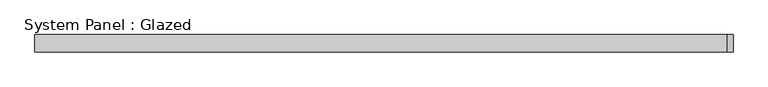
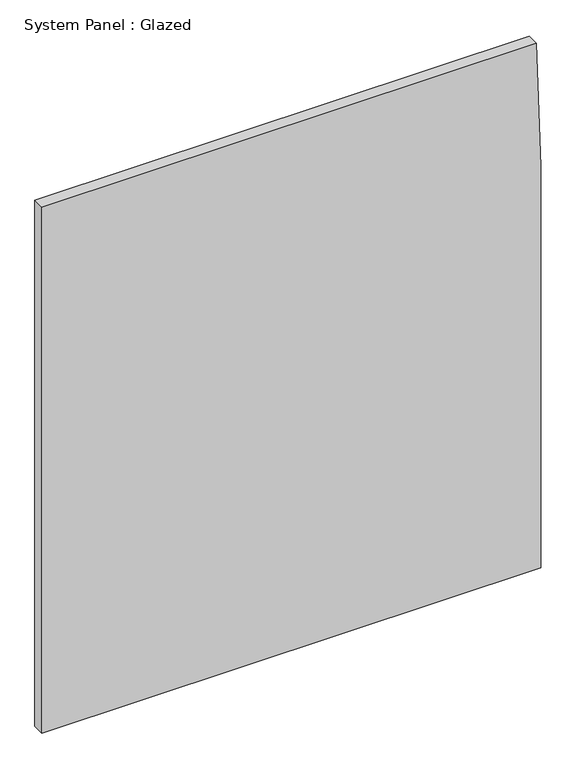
"""IFC4 building model written with IfcOpenShell, lengths in millimetres: plate geometry, System Panel : Glazed."""

from ifc_helpers import new_model, si_unit, point, frame, frame_2d, origin, place, context, project, spatial, polyline, circle_curve, trimmed, segment, composite_curve, outline, extrude, source, transform, mapped, element, save


def system_panel_glazed_f13d1862(model_context):
    return source(origin(), model_context, "Body", "SweptSolid", [
        extrude(outline(composite_curve([segment(polyline([(0.0, -518.432143), (0.0, 518.432143), (882.65, 518.432143)]), True, "CONTINUOUS"), segment(trimmed(circle_curve(frame_2d((882.65, -3380.467857)), 3898.9), [point((882.65, 518.432143))], [point((1155.7, 508.8591937))], False, "CARTESIAN"), True, "CONTINUOUS"), segment(polyline([(1155.7, 508.8591937), (1155.7, -518.432143), (0.0, -518.432143)]), True, "CONTINUOUS")], self_intersect=False)), frame((0.0, -44.45, 0.0), z_axis=(0.0, 1.0, 0.0), x_axis=(0.0, 0.0, 1.0)), (0.0, 0.0, 1.0), 25.4),
    ])


if __name__ == "__main__":
    model = new_model("IFC4")
    model_context = context("Model", 3, world=origin())
    ifc_project = project(units=[si_unit("LENGTHUNIT", "METRE", prefix="MILLI")], contexts=[model_context])
    site = spatial("IfcSite", under=ifc_project)
    building = spatial("IfcBuilding", under=site)
    placement = place(None, origin())
    system_panel_glazed_shape = system_panel_glazed_f13d1862(model_context)
    element("IfcPlate", 1, ObjectType="System Panel : Glazed", at=placement, inside=building, context=model_context, shape_type="MappedRepresentation", body=[
        mapped(system_panel_glazed_shape, transform((0.0, 0.0, 0.0), x_axis=(1.0, 0.0, 0.0), y_axis=(0.0, 1.0, 0.0), z_axis=(0.0, 0.0, 1.0))),
    ])
    save(model, "model.ifc")
